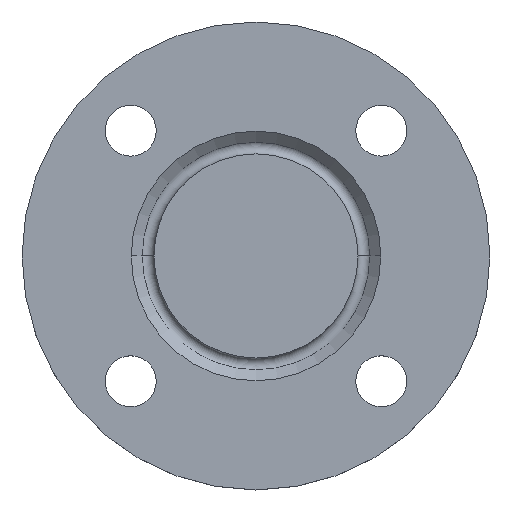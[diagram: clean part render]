
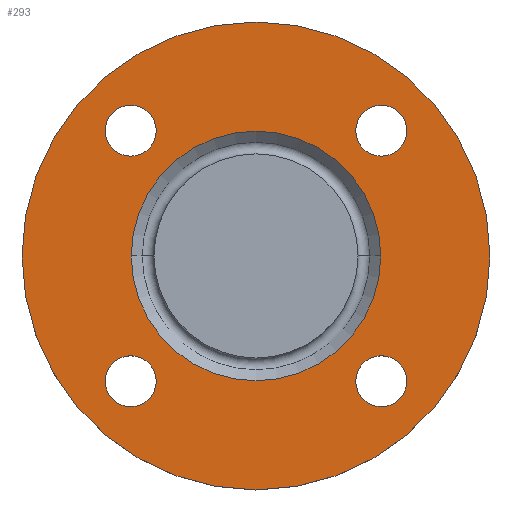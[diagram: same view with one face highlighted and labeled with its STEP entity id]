
A CAD part, top view. The second image highlights one B-rep face of the part: STEP entity #293.
In plain terms, the highlighted planar face has unit normal (0, 0, 1).
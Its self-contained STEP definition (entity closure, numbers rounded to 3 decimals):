
#9 = CIRCLE ( 'NONE', #11, 9. ) ;
#11 = AXIS2_PLACEMENT_3D ( 'NONE', #438, #437, #436 ) ;
#14 = CIRCLE ( 'NONE', #17, 9. ) ;
#17 = AXIS2_PLACEMENT_3D ( 'NONE', #435, #434, #433 ) ;
#50 = CIRCLE ( 'NONE', #54, 9. ) ;
#52 = CIRCLE ( 'NONE', #379, 82.5 ) ;
#54 = AXIS2_PLACEMENT_3D ( 'NONE', #404, #403, #402 ) ;
#55 = DIRECTION ( 'NONE',  ( -1., 0., 0. ) ) ;
#58 = EDGE_CURVE ( 'NONE', #536, #598, #9, .T. ) ;
#61 = DIRECTION ( 'NONE',  ( 0., 0., -1. ) ) ;
#63 = CARTESIAN_POINT ( 'NONE',  ( 0., 0., -2. ) ) ;
#72 = CARTESIAN_POINT ( 'NONE',  ( -35.194, 44.194, -2. ) ) ;
#73 = CARTESIAN_POINT ( 'NONE',  ( 35.194, 44.194, -2. ) ) ;
#78 = CIRCLE ( 'NONE', #85, 9. ) ;
#80 = CARTESIAN_POINT ( 'NONE',  ( 35.194, -44.194, -2. ) ) ;
#85 = AXIS2_PLACEMENT_3D ( 'NONE', #382, #381, #380 ) ;
#87 = CARTESIAN_POINT ( 'NONE',  ( -53.194, 44.194, -2. ) ) ;
#88 = CARTESIAN_POINT ( 'NONE',  ( -44., 0., -2. ) ) ;
#90 = CARTESIAN_POINT ( 'NONE',  ( 44., 0., -2. ) ) ;
#98 = CIRCLE ( 'NONE', #100, 9. ) ;
#99 = CARTESIAN_POINT ( 'NONE',  ( -53.194, -44.194, -2. ) ) ;
#100 = AXIS2_PLACEMENT_3D ( 'NONE', #371, #368, #367 ) ;
#101 = EDGE_CURVE ( 'NONE', #598, #536, #14, .T. ) ;
#102 = CARTESIAN_POINT ( 'NONE',  ( 53.194, -44.194, -2. ) ) ;
#103 = CIRCLE ( 'NONE', #109, 9. ) ;
#109 = AXIS2_PLACEMENT_3D ( 'NONE', #361, #360, #359 ) ;
#121 = AXIS2_PLACEMENT_3D ( 'NONE', #335, #332, #329 ) ;
#125 = CARTESIAN_POINT ( 'NONE',  ( 53.194, 44.194, -2. ) ) ;
#126 = CARTESIAN_POINT ( 'NONE',  ( -35.194, -44.194, -2. ) ) ;
#132 = CARTESIAN_POINT ( 'NONE',  ( 82.5, 0., -2. ) ) ;
#135 = CARTESIAN_POINT ( 'NONE',  ( -82.5, 0., -2. ) ) ;
#149 = CIRCLE ( 'NONE', #150, 82.5 ) ;
#150 = AXIS2_PLACEMENT_3D ( 'NONE', #280, #278, #277 ) ;
#165 = DIRECTION ( 'NONE',  ( -1., 0., 0. ) ) ;
#166 = DIRECTION ( 'NONE',  ( 0., 0., -1. ) ) ;
#167 = CARTESIAN_POINT ( 'NONE',  ( 0., 0., -2. ) ) ;
#168 = DIRECTION ( 'NONE',  ( 1., 0., 0. ) ) ;
#169 = CIRCLE ( 'NONE', #171, 9. ) ;
#170 = DIRECTION ( 'NONE',  ( 0., 0., -1. ) ) ;
#171 = AXIS2_PLACEMENT_3D ( 'NONE', #256, #253, #248 ) ;
#186 = CIRCLE ( 'NONE', #193, 44. ) ;
#189 = CARTESIAN_POINT ( 'NONE',  ( -44.194, -44.194, -2. ) ) ;
#191 = EDGE_CURVE ( 'NONE', #585, #571, #50, .T. ) ;
#193 = AXIS2_PLACEMENT_3D ( 'NONE', #210, #209, #208 ) ;
#208 = DIRECTION ( 'NONE',  ( -1., 0., 0. ) ) ;
#209 = DIRECTION ( 'NONE',  ( 0., 0., -1. ) ) ;
#210 = CARTESIAN_POINT ( 'NONE',  ( 0., 0., -2. ) ) ;
#236 = EDGE_CURVE ( 'NONE', #571, #585, #78, .T. ) ;
#239 = CIRCLE ( 'NONE', #240, 9. ) ;
#240 = AXIS2_PLACEMENT_3D ( 'NONE', #189, #170, #168 ) ;
#242 = CIRCLE ( 'NONE', #244, 44. ) ;
#244 = AXIS2_PLACEMENT_3D ( 'NONE', #167, #166, #165 ) ;
#248 = DIRECTION ( 'NONE',  ( 1., 0., 0. ) ) ;
#253 = DIRECTION ( 'NONE',  ( 0., 0., -1. ) ) ;
#256 = CARTESIAN_POINT ( 'NONE',  ( -44.194, 44.194, -2. ) ) ;
#277 = DIRECTION ( 'NONE',  ( -1., 0., 0. ) ) ;
#278 = DIRECTION ( 'NONE',  ( 0., 0., -1. ) ) ;
#279 = EDGE_CURVE ( 'NONE', #600, #580, #98, .T. ) ;
#280 = CARTESIAN_POINT ( 'NONE',  ( 0., 0., -2. ) ) ;
#285 = EDGE_CURVE ( 'NONE', #523, #573, #103, .T. ) ;
#293 = ADVANCED_FACE ( 'NONE', ( #350, #347, #346, #342, #339, #337 ), #336, .T. ) ;
#317 = EDGE_CURVE ( 'NONE', #514, #511, #149, .T. ) ;
#329 = DIRECTION ( 'NONE',  ( 1., 0., 0. ) ) ;
#332 = DIRECTION ( 'NONE',  ( 0., 0., 1. ) ) ;
#334 = EDGE_CURVE ( 'NONE', #580, #600, #169, .T. ) ;
#335 = CARTESIAN_POINT ( 'NONE',  ( 82.5, 0., -2. ) ) ;
#336 = PLANE ( 'NONE',  #121 ) ;
#337 = FACE_OUTER_BOUND ( 'NONE', #495, .T. ) ;
#339 = FACE_BOUND ( 'NONE', #493, .T. ) ;
#342 = FACE_BOUND ( 'NONE', #492, .T. ) ;
#346 = FACE_BOUND ( 'NONE', #500, .T. ) ;
#347 = FACE_BOUND ( 'NONE', #471, .T. ) ;
#348 = EDGE_CURVE ( 'NONE', #576, #579, #186, .T. ) ;
#350 = FACE_BOUND ( 'NONE', #524, .T. ) ;
#359 = DIRECTION ( 'NONE',  ( 1., 0., 0. ) ) ;
#360 = DIRECTION ( 'NONE',  ( 0., 0., -1. ) ) ;
#361 = CARTESIAN_POINT ( 'NONE',  ( -44.194, -44.194, -2. ) ) ;
#367 = DIRECTION ( 'NONE',  ( 1., 0., 0. ) ) ;
#368 = DIRECTION ( 'NONE',  ( 0., 0., -1. ) ) ;
#371 = CARTESIAN_POINT ( 'NONE',  ( -44.194, 44.194, -2. ) ) ;
#379 = AXIS2_PLACEMENT_3D ( 'NONE', #63, #61, #55 ) ;
#380 = DIRECTION ( 'NONE',  ( 1., 0., 0. ) ) ;
#381 = DIRECTION ( 'NONE',  ( 0., 0., -1. ) ) ;
#382 = CARTESIAN_POINT ( 'NONE',  ( 44.194, -44.194, -2. ) ) ;
#393 = EDGE_CURVE ( 'NONE', #573, #523, #239, .T. ) ;
#396 = EDGE_CURVE ( 'NONE', #579, #576, #242, .T. ) ;
#402 = DIRECTION ( 'NONE',  ( 1., 0., 0. ) ) ;
#403 = DIRECTION ( 'NONE',  ( 0., 0., -1. ) ) ;
#404 = CARTESIAN_POINT ( 'NONE',  ( 44.194, -44.194, -2. ) ) ;
#433 = DIRECTION ( 'NONE',  ( 1., 0., 0. ) ) ;
#434 = DIRECTION ( 'NONE',  ( 0., 0., -1. ) ) ;
#435 = CARTESIAN_POINT ( 'NONE',  ( 44.194, 44.194, -2. ) ) ;
#436 = DIRECTION ( 'NONE',  ( 1., 0., 0. ) ) ;
#437 = DIRECTION ( 'NONE',  ( 0., 0., -1. ) ) ;
#438 = CARTESIAN_POINT ( 'NONE',  ( 44.194, 44.194, -2. ) ) ;
#471 = EDGE_LOOP ( 'NONE', ( #535, #582 ) ) ;
#492 = EDGE_LOOP ( 'NONE', ( #566, #574 ) ) ;
#493 = EDGE_LOOP ( 'NONE', ( #572, #537 ) ) ;
#495 = EDGE_LOOP ( 'NONE', ( #538, #541 ) ) ;
#500 = EDGE_LOOP ( 'NONE', ( #578, #583 ) ) ;
#511 = VERTEX_POINT ( 'NONE', #135 ) ;
#514 = VERTEX_POINT ( 'NONE', #132 ) ;
#523 = VERTEX_POINT ( 'NONE', #126 ) ;
#524 = EDGE_LOOP ( 'NONE', ( #533, #584 ) ) ;
#533 = ORIENTED_EDGE ( 'NONE', *, *, #236, .T. ) ;
#535 = ORIENTED_EDGE ( 'NONE', *, *, #285, .T. ) ;
#536 = VERTEX_POINT ( 'NONE', #125 ) ;
#537 = ORIENTED_EDGE ( 'NONE', *, *, #396, .T. ) ;
#538 = ORIENTED_EDGE ( 'NONE', *, *, #317, .F. ) ;
#541 = ORIENTED_EDGE ( 'NONE', *, *, #616, .F. ) ;
#566 = ORIENTED_EDGE ( 'NONE', *, *, #58, .T. ) ;
#571 = VERTEX_POINT ( 'NONE', #102 ) ;
#572 = ORIENTED_EDGE ( 'NONE', *, *, #348, .T. ) ;
#573 = VERTEX_POINT ( 'NONE', #99 ) ;
#574 = ORIENTED_EDGE ( 'NONE', *, *, #101, .T. ) ;
#576 = VERTEX_POINT ( 'NONE', #90 ) ;
#578 = ORIENTED_EDGE ( 'NONE', *, *, #279, .T. ) ;
#579 = VERTEX_POINT ( 'NONE', #88 ) ;
#580 = VERTEX_POINT ( 'NONE', #87 ) ;
#582 = ORIENTED_EDGE ( 'NONE', *, *, #393, .T. ) ;
#583 = ORIENTED_EDGE ( 'NONE', *, *, #334, .T. ) ;
#584 = ORIENTED_EDGE ( 'NONE', *, *, #191, .T. ) ;
#585 = VERTEX_POINT ( 'NONE', #80 ) ;
#598 = VERTEX_POINT ( 'NONE', #73 ) ;
#600 = VERTEX_POINT ( 'NONE', #72 ) ;
#616 = EDGE_CURVE ( 'NONE', #511, #514, #52, .T. ) ;
